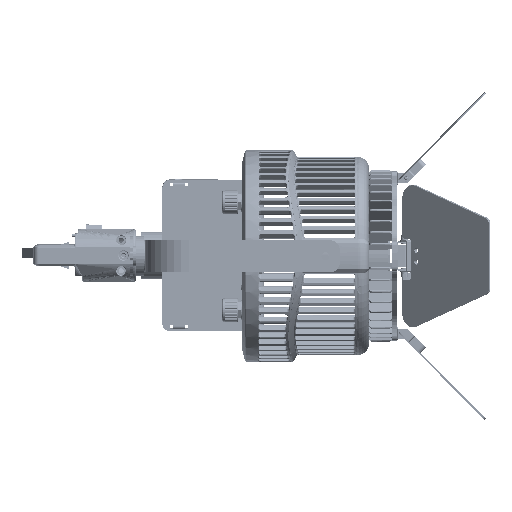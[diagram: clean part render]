
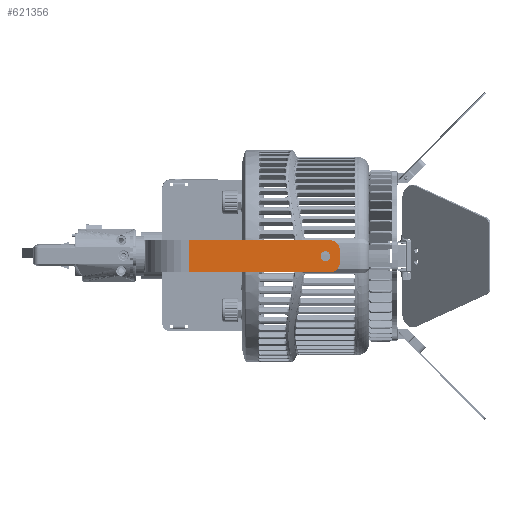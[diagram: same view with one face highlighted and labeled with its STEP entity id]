
A CAD part, left-side view. The second image highlights one B-rep face of the part: STEP entity #621356.
In plain terms, the highlighted planar face has unit normal (-1, 0, -0.003) as drawn and (1, 0, 0) by its records, which use the part's own axes.
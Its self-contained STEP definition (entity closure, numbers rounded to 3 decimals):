
#31690 = ORIENTED_EDGE ( 'NONE', *, *, #329261, .T. ) ;
#49774 = VECTOR ( 'NONE', #544349, 1000. ) ;
#50342 = EDGE_CURVE ( 'NONE', #277846, #199512, #387619, .T. ) ;
#52339 = ORIENTED_EDGE ( 'NONE', *, *, #750502, .T. ) ;
#87390 = DIRECTION ( 'NONE',  ( 1., 0., 0. ) ) ;
#99915 = DIRECTION ( 'NONE',  ( -1., 0., 0. ) ) ;
#123932 = VERTEX_POINT ( 'NONE', #354680 ) ;
#129420 = VERTEX_POINT ( 'NONE', #775807 ) ;
#135490 = EDGE_CURVE ( 'NONE', #598410, #613755, #671276, .T. ) ;
#144624 = CARTESIAN_POINT ( 'NONE',  ( 73.1, 4., -4. ) ) ;
#148585 = LINE ( 'NONE', #271257, #386369 ) ;
#151247 = FACE_OUTER_BOUND ( 'NONE', #720674, .T. ) ;
#168333 = EDGE_CURVE ( 'NONE', #123932, #598410, #675061, .T. ) ;
#199512 = VERTEX_POINT ( 'NONE', #805479 ) ;
#210515 = DIRECTION ( 'NONE',  ( 0., 0., 1. ) ) ;
#228276 = EDGE_CURVE ( 'NONE', #549534, #484402, #430432, .T. ) ;
#228310 = DIRECTION ( 'NONE',  ( 0., -1., 0. ) ) ;
#238726 = CARTESIAN_POINT ( 'NONE',  ( 73.1, 0., -3.9 ) ) ;
#271257 = CARTESIAN_POINT ( 'NONE',  ( 73.1, 10., -93. ) ) ;
#277846 = VERTEX_POINT ( 'NONE', #634935 ) ;
#292122 = DIRECTION ( 'NONE',  ( 0., 0., 1. ) ) ;
#292579 = AXIS2_PLACEMENT_3D ( 'NONE', #144624, #87390, #520668 ) ;
#301883 = CARTESIAN_POINT ( 'NONE',  ( 73.1, -4., -4. ) ) ;
#313868 = AXIS2_PLACEMENT_3D ( 'NONE', #301883, #469744, #535139 ) ;
#322293 = CARTESIAN_POINT ( 'NONE',  ( 73.1, -10., -120.5 ) ) ;
#327320 = FACE_BOUND ( 'NONE', #747413, .T. ) ;
#329261 = EDGE_CURVE ( 'NONE', #129420, #199512, #379197, .T. ) ;
#335097 = EDGE_CURVE ( 'NONE', #484402, #549534, #465905, .T. ) ;
#354680 = CARTESIAN_POINT ( 'NONE',  ( 73.1, 10., -93. ) ) ;
#379197 = CIRCLE ( 'NONE', #313868, 6. ) ;
#386369 = VECTOR ( 'NONE', #455202, 1000. ) ;
#387619 = LINE ( 'NONE', #322293, #617644 ) ;
#403092 = CARTESIAN_POINT ( 'NONE',  ( 73.1, 4., 2. ) ) ;
#414610 = EDGE_CURVE ( 'NONE', #277846, #123932, #148585, .T. ) ;
#430432 = CIRCLE ( 'NONE', #639392, 3.1 ) ;
#455202 = DIRECTION ( 'NONE',  ( 0., 1., 0. ) ) ;
#459756 = CARTESIAN_POINT ( 'NONE',  ( 73.1, 0., -7. ) ) ;
#465905 = CIRCLE ( 'NONE', #570347, 3.1 ) ;
#469744 = DIRECTION ( 'NONE',  ( 1., 0., 0. ) ) ;
#484402 = VERTEX_POINT ( 'NONE', #238726 ) ;
#506342 = AXIS2_PLACEMENT_3D ( 'NONE', #523297, #715373, #703283 ) ;
#520668 = DIRECTION ( 'NONE',  ( 0., 0., -1. ) ) ;
#523297 = CARTESIAN_POINT ( 'NONE',  ( 73.1, 10., -120.5 ) ) ;
#535139 = DIRECTION ( 'NONE',  ( 0., 0., -1. ) ) ;
#544349 = DIRECTION ( 'NONE',  ( 0., 0., 1. ) ) ;
#549534 = VERTEX_POINT ( 'NONE', #735605 ) ;
#553559 = DIRECTION ( 'NONE',  ( -1., 0., 0. ) ) ;
#563519 = DIRECTION ( 'NONE',  ( 0., 0., 1. ) ) ;
#570347 = AXIS2_PLACEMENT_3D ( 'NONE', #459756, #99915, #210515 ) ;
#598410 = VERTEX_POINT ( 'NONE', #694040 ) ;
#604238 = LINE ( 'NONE', #726981, #633724 ) ;
#613755 = VERTEX_POINT ( 'NONE', #403092 ) ;
#617644 = VECTOR ( 'NONE', #563519, 1000. ) ;
#621356 = ADVANCED_FACE ( 'NONE', ( #327320, #151247 ), #649992, .T. ) ;
#633724 = VECTOR ( 'NONE', #228310, 1000. ) ;
#634935 = CARTESIAN_POINT ( 'NONE',  ( 73.1, -10., -93. ) ) ;
#639392 = AXIS2_PLACEMENT_3D ( 'NONE', #770755, #553559, #292122 ) ;
#649992 = PLANE ( 'NONE',  #506342 ) ;
#666970 = CARTESIAN_POINT ( 'NONE',  ( 73.1, 10., -4. ) ) ;
#671276 = CIRCLE ( 'NONE', #292579, 6. ) ;
#675061 = LINE ( 'NONE', #666970, #49774 ) ;
#675209 = ORIENTED_EDGE ( 'NONE', *, *, #414610, .T. ) ;
#679900 = ORIENTED_EDGE ( 'NONE', *, *, #168333, .T. ) ;
#694040 = CARTESIAN_POINT ( 'NONE',  ( 73.1, 10., -4. ) ) ;
#702272 = ORIENTED_EDGE ( 'NONE', *, *, #228276, .T. ) ;
#703283 = DIRECTION ( 'NONE',  ( 0., 0., -1. ) ) ;
#715373 = DIRECTION ( 'NONE',  ( 1., 0., 0. ) ) ;
#720380 = ORIENTED_EDGE ( 'NONE', *, *, #50342, .F. ) ;
#720674 = EDGE_LOOP ( 'NONE', ( #720380, #675209, #679900, #786438, #52339, #31690 ) ) ;
#726981 = CARTESIAN_POINT ( 'NONE',  ( 73.1, 10., 2. ) ) ;
#735605 = CARTESIAN_POINT ( 'NONE',  ( 73.1, 0., -10.1 ) ) ;
#747413 = EDGE_LOOP ( 'NONE', ( #759216, #702272 ) ) ;
#750502 = EDGE_CURVE ( 'NONE', #613755, #129420, #604238, .T. ) ;
#759216 = ORIENTED_EDGE ( 'NONE', *, *, #335097, .T. ) ;
#770755 = CARTESIAN_POINT ( 'NONE',  ( 73.1, 0., -7. ) ) ;
#775807 = CARTESIAN_POINT ( 'NONE',  ( 73.1, -4., 2. ) ) ;
#786438 = ORIENTED_EDGE ( 'NONE', *, *, #135490, .T. ) ;
#805479 = CARTESIAN_POINT ( 'NONE',  ( 73.1, -10., -4. ) ) ;
